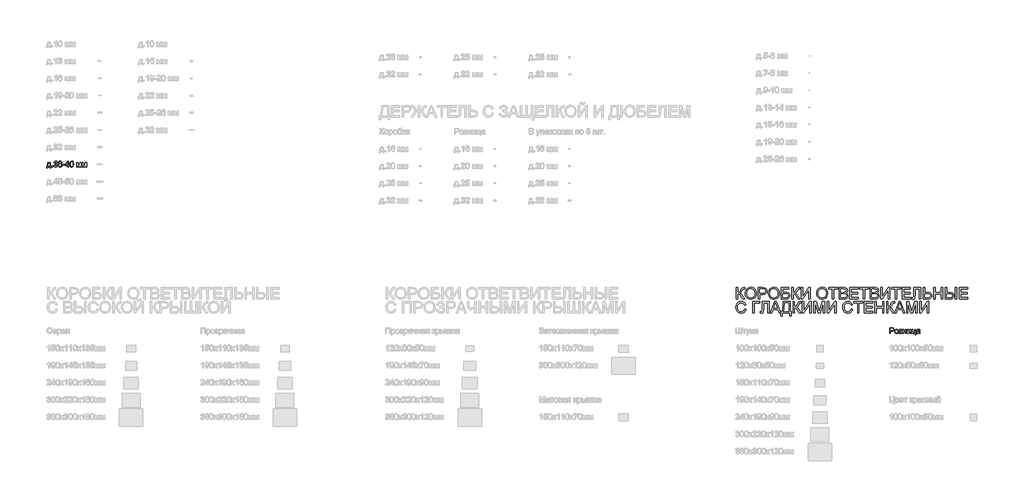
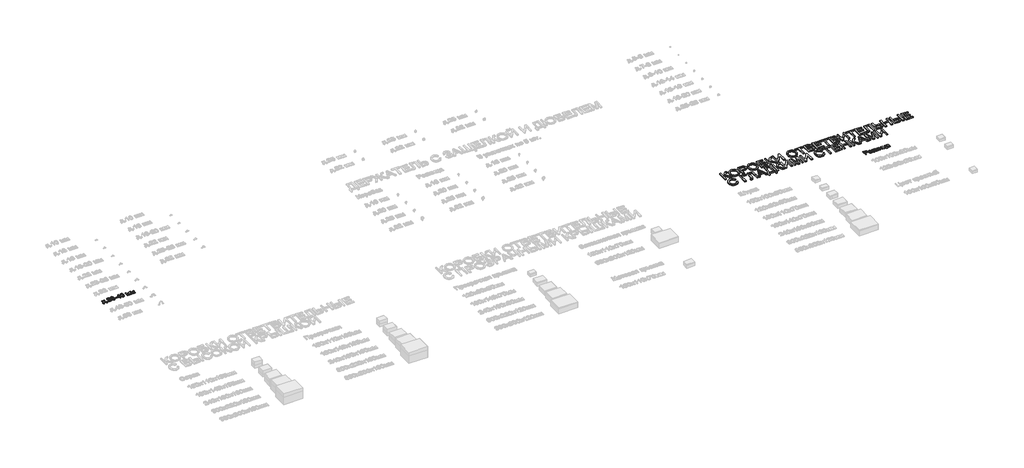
# One storey, part 32 of 98: 3 proxies.
"""IFC4 building model written with IfcOpenShell, lengths in millimetres."""

from ifc_helpers import new_model, si_unit, origin, origin_with_axes, place, context, project, spatial, polyline, outline, extrude, element, save

model = new_model("IFC4")

# Units and contexts
model_context = context("Model", 3, world=origin())
ifc_project = project(units=[si_unit("LENGTHUNIT", "METRE", prefix="MILLI")], contexts=[model_context])

# Site, building, storey
site = spatial("IfcSite", under=ifc_project)
building = spatial("IfcBuilding", under=site)
storey = spatial("IfcBuildingStorey", under=building, Name="Этаж 01", Elevation=0.0)

# Proxies
placement = place(None, origin())
element("IfcBuildingElementProxy", 1, Name="100", ObjectType="100", at=placement, inside=storey, context=model_context, shape_type="SweptSolid", body=[
    extrude(outline(polyline([(-26.9858135, -39056.3894484), (20.1030819, -39056.3894484), (20.1030819, -39117.6050124), (29.520861, -39117.6050124), (29.520861, -39150.5672392), (16.9638222, -39150.5672392), (16.9638222, -39130.1620512), (-34.8339627, -39130.1620512), (-34.8339627, -39150.5672392), (-47.3910015, -39150.5672392), (-47.3910015, -39117.6050124), (-39.5428522, -39117.6050124), (-29.8430303, -39093.6558945), (-26.9858135, -39056.3894484)]), holes=[polyline([(-15.9984045, -39068.9464872), (-18.9414605, -39097.5554437), (-25.4161836, -39117.6050124), (7.5460431, -39117.6050124), (7.5460431, -39068.9464872), (-15.9984045, -39068.9464872)])]), origin_with_axes(), (0.0, 0.0, 1.0), 10.0),
    extrude(outline(polyline([(46.7867893, -39130.1620512), (46.7867893, -39117.6050124), (59.3438281, -39117.6050124), (59.3438281, -39130.1620512), (46.7867893, -39130.1620512)])), origin_with_axes(), (0.0, 0.0, 1.0), 10.0),
    extrude(outline(polyline([(79.7490161, -39103.4783438), (92.3060548, -39101.9087139), (99.2344991, -39115.1279403), (112.196208, -39119.1746422), (120.8046467, -39117.782822), (127.4510481, -39113.6073614), (133.1164308, -39099.8240493), (127.500099, -39086.8378149), (113.2262776, -39081.6997297), (104.4216352, -39083.0731558), (105.8195868, -39070.516117), (107.830675, -39070.6632698), (122.079971, -39067.0580263), (126.8256487, -39062.4840268), (128.4075413, -39055.9725155), (123.8212791, -39046.1500662), (112.0000043, -39042.2627798), (100.0315767, -39046.1868544), (93.8756847, -39057.9590783), (81.3186459, -39056.3894484), (85.01586, -39045.1138653), (91.5948163, -39036.6954989), (100.5956625, -39031.4531805), (111.5585459, -39029.705741), (126.7030214, -39033.151569), (137.2980228, -39042.5693481), (140.9645801, -39055.2367515), (137.4819638, -39066.8127716), (127.181268, -39075.1269047), (140.8664782, -39083.7108179), (145.6734696, -39100.0447785), (143.2699739, -39112.2829862), (136.0594868, -39122.5101057), (125.1763111, -39129.4262872), (111.7547496, -39131.731681), (99.6146438, -39129.7635123), (89.7308809, -39123.8590063), (82.8576189, -39114.8275033), (79.7490161, -39103.4783438)])), origin_with_axes(), (0.0, 0.0, 1.0), 10.0),
    extrude(outline(polyline([(174.9568764, -39074.8325991), (163.5157464, -39067.0335008), (159.8001382, -39054.893395), (161.8234892, -39045.0770771), (167.8935421, -39036.9652791), (177.3297153, -39031.5206255), (189.451427, -39029.705741), (201.6467152, -39031.5635451), (211.2055157, -39037.1369573), (217.3859332, -39045.377514), (219.4460724, -39055.2367515), (215.7795151, -39067.070289), (204.6572162, -39074.8325991), (218.0113326, -39084.6795738), (222.5853321, -39100.9276953), (220.3167264, -39112.9329111), (213.5109095, -39122.8534622), (203.0017472, -39129.5121263), (189.6231053, -39131.731681), (176.2444634, -39129.5029293), (165.7353011, -39122.816674), (158.9294842, -39112.8010867), (156.6608785, -39100.5843388), (161.418819, -39083.9560726), (174.9568764, -39074.8325991)]), holes=[polyline([(169.2179173, -39100.1428804), (171.3148447, -39109.5974476), (178.7337982, -39116.6730447), (189.7212072, -39119.1746422), (198.2683322, -39117.8594641), (204.6817416, -39113.9139297), (210.0282933, -39100.5352878), (204.5100634, -39086.8991285), (197.9495011, -39082.8524266), (189.3042742, -39081.5035259), (180.8767109, -39082.8340325), (174.5276808, -39086.8255521), (169.2179173, -39100.1428804)]), polyline([(172.357177, -39055.261277), (176.8085491, -39065.1205144), (189.7702581, -39068.9464872), (202.4744497, -39065.1450399), (206.8890336, -39055.8253627), (202.3272969, -39046.1745917), (189.6231053, -39042.2627798), (176.8821255, -39046.0887525), (172.357177, -39055.261277)])]), origin_with_axes(), (0.0, 0.0, 1.0), 10.0),
    extrude(outline(polyline([(230.4334813, -39100.3390841), (230.4334813, -39087.7820453), (269.6742274, -39087.7820453), (269.6742274, -39100.3390841), (230.4334813, -39100.3390841)])), origin_with_axes(), (0.0, 0.0, 1.0), 10.0),
    extrude(outline(polyline([(321.4720124, -39130.1620512), (321.4720124, -39106.6176035), (275.9527468, -39106.6176035), (275.9527468, -39094.0605647), (324.6112721, -39031.2753709), (334.0290511, -39031.2753709), (334.0290511, -39094.0605647), (346.5860899, -39094.0605647), (346.5860899, -39106.6176035), (334.0290511, -39106.6176035), (334.0290511, -39130.1620512), (321.4720124, -39130.1620512)]), holes=[polyline([(321.4720124, -39094.0605647), (321.4720124, -39055.261277), (291.4037906, -39094.0605647), (321.4720124, -39094.0605647)])]), origin_with_axes(), (0.0, 0.0, 1.0), 10.0),
    extrude(outline(polyline([(357.5734988, -39080.7432365), (361.2645815, -39051.8399744), (372.227465, -39035.17492), (390.5357256, -39029.705741), (405.2019545, -39032.9431026), (415.3309721, -39042.2750425), (421.217084, -39057.1374751), (423.4979524, -39080.7432365), (419.8436579, -39109.5238712), (408.9175626, -39126.2257138), (400.686203, -39130.3551892), (390.5357256, -39131.731681), (377.4881775, -39129.340448), (367.5798891, -39122.1667491), (360.0750964, -39105.1767323), (357.5734988, -39080.7432365)]), holes=[polyline([(370.1305376, -39080.718711), (371.6020656, -39100.4709085), (376.0166495, -39111.9028415), (382.5894745, -39117.3566921), (390.5357256, -39119.1746422), (398.4819767, -39117.3505607), (405.0548017, -39111.878316), (409.4693856, -39100.4402516), (410.9409136, -39080.718711), (409.5184365, -39061.4110376), (405.2510054, -39049.8901998), (398.6904431, -39044.1696348), (390.3885728, -39042.2627798), (382.5281608, -39043.9427742), (376.2128532, -39048.9827576), (371.6511165, -39061.2209653), (370.1305376, -39080.718711)])]), origin_with_axes(), (0.0, 0.0, 1.0), 10.0),
    extrude(outline(polyline([(476.8653671, -39056.3894484), (498.472303, -39056.3894484), (515.1250946, -39115.4467714), (533.077736, -39056.3894484), (553.7772296, -39056.3894484), (553.7772296, -39130.1620512), (541.2201908, -39130.1620512), (541.2201908, -39070.7613717), (523.1694476, -39130.1620512), (506.6883342, -39130.1620512), (489.4224059, -39067.9164176), (489.4224059, -39130.1620512), (476.8653671, -39130.1620512), (476.8653671, -39056.3894484)])), origin_with_axes(), (0.0, 0.0, 1.0), 10.0),
    extrude(outline(polyline([(572.6127877, -39056.3894484), (594.2197236, -39056.3894484), (610.8725152, -39115.4467714), (628.8251566, -39056.3894484), (649.5246502, -39056.3894484), (649.5246502, -39130.1620512), (636.9676114, -39130.1620512), (636.9676114, -39070.7613717), (618.9168682, -39130.1620512), (602.4357548, -39130.1620512), (585.1698265, -39067.9164176), (585.1698265, -39130.1620512), (572.6127877, -39130.1620512), (572.6127877, -39056.3894484)])), origin_with_axes(), (0.0, 0.0, 1.0), 10.0),
])
element("IfcBuildingElementProxy", 2, Name="100", ObjectType="100", at=placement, inside=storey, context=model_context, shape_type="SweptSolid", body=[
    extrude(outline(polyline([(14647.089418, -42037.5373486), (14647.089418, -41937.0810385), (14684.319076, -41937.0810385), (14699.3286614, -41938.0375317), (14711.5300809, -41942.7341585), (14719.4395438, -41952.4462431), (14722.4316507, -41966.1437161), (14720.4113654, -41977.983385), (14714.3505095, -41987.8487538), (14703.0166784, -41994.5074179), (14685.1774673, -41996.7269726), (14659.6464568, -41996.7269726), (14659.6464568, -42037.5373486), (14647.089418, -42037.5373486)]), holes=[polyline([(14659.6464568, -41984.1699338), (14685.9132313, -41984.1699338), (14704.4054329, -41979.5591462), (14708.5073171, -41974.0102594), (14709.8746119, -41966.5851745), (14706.6495131, -41956.1863767), (14698.1759644, -41950.4964686), (14685.6189257, -41949.6380772), (14659.6464568, -41949.6380772), (14659.6464568, -41984.1699338)])]), origin_with_axes(), (0.0, 0.0, 1.0), 10.0),
    extrude(outline(polyline([(14734.9886894, -42000.6510472), (14737.7048848, -41982.8639528), (14745.853471, -41970.3620963), (14755.921175, -41964.2368611), (14767.9754417, -41962.195116), (14781.1670769, -41964.6813852), (14791.7038303, -41972.1401926), (14798.6108148, -41983.9829272), (14800.913143, -41999.6209776), (14796.8419155, -42021.9636775), (14784.9838526, -42034.6065554), (14767.9754417, -42039.1069785), (14754.6243909, -42036.6299064), (14744.0999002, -42029.1986901), (14737.2664921, -42017.1076351), (14734.9886894, -42000.6510472)]), holes=[polyline([(14747.5457282, -42000.6265218), (14748.9988621, -42011.9910097), (14753.3582637, -42020.0874793), (14759.918826, -42024.9343246), (14767.9754417, -42026.5499397), (14775.9952692, -42024.9251275), (14782.5435687, -42020.0506911), (14786.9029703, -42011.8469226), (14788.3561042, -42000.2341143), (14786.8937733, -41989.2007201), (14782.5067805, -41981.2146152), (14775.9492839, -41976.3677699), (14767.9754417, -41974.7521548), (14759.918826, -41976.3616385), (14753.3582637, -41981.1900897), (14748.9988621, -41989.2681652), (14747.5457282, -42000.6265218)])]), origin_with_axes(), (0.0, 0.0, 1.0), 10.0),
    extrude(outline(polyline([(14832.3057399, -42004.5751218), (14832.3057399, -41992.0180831), (14842.2140283, -41991.5275737), (14847.2172234, -41988.9156116), (14849.5716682, -41983.4586953), (14846.4201458, -41977.1188623), (14838.2899537, -41974.7521548), (14829.8899814, -41977.1065995), (14824.4575907, -41984.1699338), (14810.330922, -41982.600304), (14819.7732266, -41967.296413), (14837.0146294, -41962.195116), (14847.511529, -41963.7494174), (14855.4577801, -41968.4123217), (14860.4609752, -41975.233467), (14862.128707, -41983.2624916), (14859.7558681, -41991.0615899), (14852.6373515, -41997.0948546), (14860.9392218, -42004.9184784), (14863.6983368, -42016.1756674), (14861.9478316, -42025.4187026), (14856.6963162, -42032.7426199), (14848.2994096, -42037.5158888), (14837.1127313, -42039.1069785), (14826.1713076, -42037.6354505), (14817.7989265, -42033.2208665), (14811.9955881, -42025.8632266), (14808.7612922, -42015.5625308), (14822.8879608, -42013.9929009), (14828.5533435, -42023.2635272), (14838.3144791, -42026.5499397), (14847.4870036, -42023.3984173), (14851.141298, -42015.3418016), (14848.8726924, -42008.7444511), (14844.0411755, -42005.212784), (14834.7582865, -42004.5015454), (14832.3057399, -42004.5751218)])), origin_with_axes(), (0.0, 0.0, 1.0), 10.0),
    extrude(outline(polyline([(14879.3946353, -41963.7647458), (14891.951674, -41963.7647458), (14891.951674, -41992.0180831), (14924.9139008, -41992.0180831), (14924.9139008, -41963.7647458), (14937.4709396, -41963.7647458), (14937.4709396, -42037.5373486), (14924.9139008, -42037.5373486), (14924.9139008, -42004.5751218), (14891.951674, -42004.5751218), (14891.951674, -42037.5373486), (14879.3946353, -42037.5373486), (14879.3946353, -41963.7647458)])), origin_with_axes(), (0.0, 0.0, 1.0), 10.0),
    extrude(outline(polyline([(14956.3064977, -41963.7647458), (14968.8635365, -41963.7647458), (14968.8635365, -42020.0261656), (14999.7165732, -41963.7647458), (15015.9524319, -41963.7647458), (15015.9524319, -42037.5373486), (15003.3953931, -42037.5373486), (15003.3953931, -41981.6192853), (14972.7385602, -42037.5373486), (14956.3064977, -42037.5373486), (14956.3064977, -41963.7647458)])), origin_with_axes(), (0.0, 0.0, 1.0), 10.0),
    extrude(outline(polyline([(15034.78799, -41963.7647458), (15047.3450288, -41963.7647458), (15047.3450288, -42024.9803098), (15083.4465153, -42024.9803098), (15083.4465153, -41963.7647458), (15096.003554, -41963.7647458), (15096.003554, -42024.9803098), (15103.8517033, -42024.9803098), (15103.8517033, -42057.9425366), (15091.2946645, -42057.9425366), (15091.2946645, -42037.5373486), (15034.78799, -42037.5373486), (15034.78799, -41963.7647458)])), origin_with_axes(), (0.0, 0.0, 1.0), 10.0),
    extrude(outline(polyline([(15161.9280076, -42028.1195695), (15149.7511135, -42036.6299064), (15136.2988952, -42039.1069785), (15125.8050613, -42037.6170564), (15118.064211, -42033.1472901), (15113.2909421, -42026.3598673), (15111.6998525, -42017.9169755), (15114.1033482, -42007.9841617), (15120.4186558, -42000.7736746), (15129.2110355, -41996.6533962), (15140.075817, -41994.7649353), (15161.8544312, -41990.4484532), (15161.9280076, -41987.6525501), (15158.4699168, -41978.3819238), (15144.5885029, -41974.7521548), (15131.8843113, -41977.1679132), (15125.8265211, -41985.7395637), (15113.2694823, -41984.1699338), (15118.7018731, -41971.9072007), (15129.6402311, -41964.721239), (15146.2071836, -41962.195116), (15161.4252355, -41964.4269334), (15170.0214115, -41970.0310025), (15173.8719097, -41978.5536021), (15174.4850463, -41989.541011), (15174.4850463, -42005.163733), (15175.1227085, -42026.9791354), (15177.624306, -42037.5373486), (15165.0672673, -42037.5373486), (15161.9280076, -42028.1195695)]), holes=[polyline([(15161.9280076, -42003.005492), (15141.6699724, -42006.8559902), (15130.8665044, -42008.8916039), (15125.9736739, -42012.2025419), (15124.2568913, -42017.0340587), (15127.9970249, -42023.8276129), (15138.9721711, -42026.5499397), (15151.6763626, -42023.5455701), (15159.8678684, -42016.2737693), (15161.8544312, -42006.5616846), (15161.9280076, -42003.005492)])]), origin_with_axes(), (0.0, 0.0, 1.0), 10.0),
])
element("IfcBuildingElementProxy", 3, Name="200", ObjectType="200", at=placement, inside=storey, context=model_context, shape_type="SweptSolid", body=[
    extrude(outline(polyline([(11978.076827, -41236.6247283), (12003.1909045, -41236.6247283), (12003.1909045, -41324.5239997), (12020.193184, -41322.8623994), (12031.2725635, -41317.8775983), (12040.2304901, -41306.148294), (12050.8684111, -41284.253184), (12064.7252996, -41256.171525), (12080.421598, -41242.2655856), (12102.8623997, -41236.6247283), (12119.3435131, -41236.9190339), (12119.3435131, -41262.0331114), (12113.8007577, -41261.8859586), (12108.2580023, -41261.7388059), (12096.7555586, -41263.247122), (12088.6376293, -41267.7720706), (12073.7261457, -41293.6219121), (12055.9451826, -41325.1126109), (12038.6056779, -41335.5114086), (12057.9930591, -41346.8666995), (12077.1106601, -41370.5337746), (12119.3435131, -41437.5373486), (12090.2072591, -41437.5373486), (12054.4981801, -41380.9325723), (12029.3595771, -41351.3793853), (12017.7529001, -41345.3645147), (12003.1909045, -41343.3595578), (12003.1909045, -41437.5373486), (11978.076827, -41437.5373486), (11978.076827, -41236.6247283)])), origin_with_axes(), (0.0, 0.0, 1.0), 20.0),
    extrude(outline(polyline([(12131.9005519, -41339.7297888), (12133.574415, -41316.1638814), (12138.5960042, -41295.3019065), (12146.9653196, -41277.1438644), (12158.6823611, -41261.6897549), (12173.0450874, -41249.3503797), (12189.3514568, -41240.5365402), (12207.6014694, -41235.2482365), (12227.7951253, -41233.4854686), (12254.1477389, -41236.7964066), (12277.7780257, -41246.7292204), (12297.3983988, -41262.5849344), (12311.7212711, -41283.6645728), (12320.4768626, -41308.9503286), (12323.3953931, -41337.424395), (12320.3235784, -41366.2786061), (12311.1081345, -41391.9199812), (12296.2579646, -41413.0364077), (12276.2819723, -41428.3157733), (12252.8540205, -41437.5863995), (12227.6479725, -41440.6766083), (12200.8906887, -41437.2614371), (12177.1255118, -41427.0159236), (12157.5541897, -41410.865904), (12143.3784701, -41389.7372147), (12134.7700314, -41365.4263462), (12131.9005519, -41339.7297888)]), holes=[polyline([(12157.0146294, -41339.9750435), (12162.0362187, -41371.4044286), (12177.1009864, -41395.3535465), (12199.7441232, -41410.5102847), (12227.5008197, -41415.5625308), (12255.6621864, -41410.4612338), (12278.3421114, -41395.1573428), (12287.0655132, -41383.8848253), (12293.2965145, -41370.4724609), (12298.2813156, -41337.2281913), (12296.1476, -41314.995856), (12289.7464533, -41295.7801531), (12279.2434223, -41280.0654606), (12264.804054, -41268.3361563), (12247.3848415, -41261.0336987), (12227.9422781, -41258.5995462), (12200.9274769, -41263.2900416), (12177.9593777, -41277.3615279), (12168.7960503, -41288.3106158), (12162.2508165, -41302.3958977), (12157.0146294, -41339.9750435)])]), origin_with_axes(), (0.0, 0.0, 1.0), 20.0),
    extrude(outline(polyline([(12357.9272497, -41437.5373486), (12357.9272497, -41236.6247283), (12432.3865655, -41236.6247283), (12462.4057364, -41238.5377147), (12486.8085754, -41247.9309683), (12495.6806628, -41256.2573641), (12502.6275012, -41267.3551376), (12507.1156615, -41280.4456053), (12508.6117149, -41294.7500836), (12504.5711444, -41318.4294213), (12492.4494326, -41338.160159), (12482.7419465, -41345.9286004), (12469.7817704, -41351.4774872), (12434.1033482, -41355.9165966), (12383.0413273, -41355.9165966), (12383.0413273, -41437.5373486), (12357.9272497, -41437.5373486)]), holes=[polyline([(12383.0413273, -41330.8025191), (12435.5748762, -41330.8025191), (12457.8439996, -41328.4971252), (12472.5592794, -41321.5809437), (12480.7630479, -41310.4831702), (12483.4976374, -41295.6330003), (12481.885088, -41284.3512858), (12477.0474398, -41274.8354049), (12469.5855666, -41267.6739687), (12460.1003425, -41263.4555885), (12434.986265, -41261.7388059), (12383.0413273, -41261.7388059), (12383.0413273, -41330.8025191)])]), origin_with_axes(), (0.0, 0.0, 1.0), 20.0),
    extrude(outline(polyline([(12533.7257925, -41339.7297888), (12535.3996556, -41316.1638814), (12540.4212448, -41295.3019065), (12548.7905602, -41277.1438644), (12560.5076017, -41261.6897549), (12574.870328, -41249.3503797), (12591.1766974, -41240.5365402), (12609.42671, -41235.2482365), (12629.6203659, -41233.4854686), (12655.9729795, -41236.7964066), (12679.6032663, -41246.7292204), (12699.2236394, -41262.5849344), (12713.5465117, -41283.6645728), (12722.3021032, -41308.9503286), (12725.2206337, -41337.424395), (12722.148819, -41366.2786061), (12712.9333751, -41391.9199812), (12698.0832052, -41413.0364077), (12678.1072129, -41428.3157733), (12654.6792611, -41437.5863995), (12629.4732131, -41440.6766083), (12602.7159293, -41437.2614371), (12578.9507524, -41427.0159236), (12559.3794303, -41410.865904), (12545.2037107, -41389.7372147), (12536.595272, -41365.4263462), (12533.7257925, -41339.7297888)]), holes=[polyline([(12558.83987, -41339.9750435), (12563.8614593, -41371.4044286), (12578.926227, -41395.3535465), (12601.5693638, -41410.5102847), (12629.3260603, -41415.5625308), (12657.487427, -41410.4612338), (12680.167352, -41395.1573428), (12688.8907538, -41383.8848253), (12695.1217551, -41370.4724609), (12700.1065562, -41337.2281913), (12697.9728406, -41314.995856), (12691.5716939, -41295.7801531), (12681.0686629, -41280.0654606), (12666.6292946, -41268.3361563), (12649.2100821, -41261.0336987), (12629.7675187, -41258.5995462), (12602.7527175, -41263.2900416), (12579.7846183, -41277.3615279), (12570.6212909, -41288.3106158), (12564.0760571, -41302.3958977), (12558.83987, -41339.9750435)])]), origin_with_axes(), (0.0, 0.0, 1.0), 20.0),
    extrude(outline(polyline([(12759.7524903, -41236.6247283), (12885.322878, -41236.6247283), (12885.322878, -41261.7388059), (12784.8665679, -41261.7388059), (12784.8665679, -41321.38474), (12831.9064123, -41321.38474), (12855.2914445, -41322.6600643), (12873.3544504, -41326.486037), (12887.2236016, -41333.8559396), (12898.0270696, -41345.7630535), (12904.9800393, -41361.09147), (12907.2976959, -41378.7252803), (12905.6483582, -41393.5325306), (12900.7003454, -41407.3464995), (12892.4781828, -41419.4436858), (12881.0063959, -41429.1005882), (12863.311272, -41435.4281585), (12836.4190981, -41437.5373486), (12759.7524903, -41437.5373486), (12759.7524903, -41236.6247283)]), holes=[polyline([(12784.8665679, -41412.4232711), (12838.675441, -41412.4232711), (12857.6949402, -41410.3508692), (12871.2943113, -41404.1336635), (12879.4612915, -41393.7716539), (12882.1836183, -41379.2648406), (12880.6262512, -41368.4613727), (12875.9541499, -41359.5954166), (12868.5045395, -41353.0225916), (12858.6146452, -41349.098517), (12820.7718506, -41346.4988175), (12784.8665679, -41346.4988175), (12784.8665679, -41412.4232711)])]), origin_with_axes(), (0.0, 0.0, 1.0), 20.0),
    extrude(outline(polyline([(12941.8295525, -41236.6247283), (12966.94363, -41236.6247283), (12966.94363, -41324.5239997), (12983.9459095, -41322.8623994), (12995.025289, -41317.8775983), (13003.9832155, -41306.148294), (13014.6211366, -41284.253184), (13028.4780251, -41256.171525), (13044.1743235, -41242.2655856), (13066.6151252, -41236.6247283), (13083.0962386, -41236.9190339), (13083.0962386, -41262.0331114), (13077.5534832, -41261.8859586), (13072.0107278, -41261.7388059), (13060.5082841, -41263.247122), (13052.3903547, -41267.7720706), (13037.4788712, -41293.6219121), (13019.6979081, -41325.1126109), (13002.3584034, -41335.5114086), (13021.7457846, -41346.8666995), (13040.8633856, -41370.5337746), (13083.0962386, -41437.5373486), (13053.9599846, -41437.5373486), (13018.2509056, -41380.9325723), (12993.1123026, -41351.3793853), (12981.5056256, -41345.3645147), (12966.94363, -41343.3595578), (12966.94363, -41437.5373486), (12941.8295525, -41437.5373486), (12941.8295525, -41236.6247283)])), origin_with_axes(), (0.0, 0.0, 1.0), 20.0),
    extrude(outline(polyline([(13105.0710565, -41236.6247283), (13130.185134, -41236.6247283), (13130.185134, -41395.745954), (13235.3503337, -41236.6247283), (13262.0340411, -41236.6247283), (13262.0340411, -41437.5373486), (13236.9199635, -41437.5373486), (13236.9199635, -41278.8575814), (13132.0000185, -41437.5373486), (13105.0710565, -41437.5373486), (13105.0710565, -41236.6247283)])), origin_with_axes(), (0.0, 0.0, 1.0), 20.0),
    extrude(outline(polyline([(13375.04739, -41339.7297888), (13376.7212531, -41316.1638814), (13381.7428423, -41295.3019065), (13390.1121577, -41277.1438644), (13401.8291992, -41261.6897549), (13416.1919255, -41249.3503797), (13432.4982949, -41240.5365402), (13450.7483075, -41235.2482365), (13470.9419634, -41233.4854686), (13497.294577, -41236.7964066), (13520.9248638, -41246.7292204), (13540.5452369, -41262.5849344), (13554.8681092, -41283.6645728), (13563.6237007, -41308.9503286), (13566.5422312, -41337.424395), (13563.4704165, -41366.2786061), (13554.2549726, -41391.9199812), (13539.4048027, -41413.0364077), (13519.4288104, -41428.3157733), (13496.0008586, -41437.5863995), (13470.7948106, -41440.6766083), (13444.0375268, -41437.2614371), (13420.2723499, -41427.0159236), (13400.7010278, -41410.865904), (13386.5253082, -41389.7372147), (13377.9168695, -41365.4263462), (13375.04739, -41339.7297888)]), holes=[polyline([(13400.1614675, -41339.9750435), (13405.1830568, -41371.4044286), (13420.2478245, -41395.3535465), (13442.8909613, -41410.5102847), (13470.6476578, -41415.5625308), (13498.8090245, -41410.4612338), (13521.4889495, -41395.1573428), (13530.2123513, -41383.8848253), (13536.4433526, -41370.4724609), (13541.4281537, -41337.2281913), (13539.2944381, -41314.995856), (13532.8932914, -41295.7801531), (13522.3902604, -41280.0654606), (13507.9508921, -41268.3361563), (13490.5316796, -41261.0336987), (13471.0891162, -41258.5995462), (13444.074315, -41263.2900416), (13421.1062158, -41277.3615279), (13411.9428884, -41288.3106158), (13405.3976546, -41302.3958977), (13400.1614675, -41339.9750435)])]), origin_with_axes(), (0.0, 0.0, 1.0), 20.0),
    extrude(outline(polyline([(13651.3022429, -41437.5373486), (13651.3022429, -41261.7388059), (13585.3777894, -41261.7388059), (13585.3777894, -41236.6247283), (13742.340774, -41236.6247283), (13742.340774, -41261.7388059), (13676.4163204, -41261.7388059), (13676.4163204, -41437.5373486), (13651.3022429, -41437.5373486)])), origin_with_axes(), (0.0, 0.0, 1.0), 20.0),
    extrude(outline(polyline([(13770.5941112, -41437.5373486), (13770.5941112, -41236.6247283), (13847.260719, -41236.6247283), (13868.3464887, -41238.1023877), (13884.809208, -41242.5353657), (13897.4275604, -41250.034027), (13906.9802295, -41260.7087363), (13912.9951002, -41273.265775), (13915.000057, -41286.411425), (13913.3139312, -41298.5086113), (13908.2555538, -41309.8822963), (13899.7881365, -41319.8335043), (13887.8748913, -41327.6632594), (13902.1057931, -41335.0944757), (13912.6210868, -41346.4007157), (13919.114204, -41360.8339526), (13921.2785764, -41377.6461598), (13915.367939, -41404.6486982), (13900.7262356, -41423.8766639), (13878.8740451, -41434.0792579), (13846.6721078, -41437.5373486), (13770.5941112, -41437.5373486)]), holes=[polyline([(13795.7081887, -41412.4232711), (13847.2116681, -41412.4232711), (13865.8510225, -41411.4422524), (13881.6208973, -41405.9730734), (13892.068746, -41394.8139862), (13896.1644989, -41377.8914145), (13891.3575075, -41358.3691433), (13885.060594, -41351.3119403), (13875.7838364, -41346.7195467), (13844.7591214, -41343.3595578), (13795.7081887, -41343.3595578), (13795.7081887, -41412.4232711)]), polyline([(13795.7081887, -41318.2454803), (13841.5708108, -41318.2454803), (13868.3526201, -41316.0872393), (13884.4658514, -41306.7920875), (13889.8859795, -41290.4336015), (13884.8337334, -41274.05059), (13870.3637083, -41264.3630308), (13838.0881946, -41261.7388059), (13795.7081887, -41261.7388059), (13795.7081887, -41318.2454803)])]), origin_with_axes(), (0.0, 0.0, 1.0), 20.0),
    extrude(outline(polyline([(13955.810433, -41437.5373486), (13955.810433, -41236.6247283), (14100.2163789, -41236.6247283), (14100.2163789, -41261.7388059), (13980.9245106, -41261.7388059), (13980.9245106, -41321.38474), (14093.9378595, -41321.38474), (14093.9378595, -41346.4988175), (13980.9245106, -41346.4988175), (13980.9245106, -41412.4232711), (14103.3556386, -41412.4232711), (14103.3556386, -41437.5373486), (13955.810433, -41437.5373486)])), origin_with_axes(), (0.0, 0.0, 1.0), 20.0),
    extrude(outline(polyline([(14191.25491, -41437.5373486), (14191.25491, -41261.7388059), (14125.3304564, -41261.7388059), (14125.3304564, -41236.6247283), (14282.293441, -41236.6247283), (14282.293441, -41261.7388059), (14216.3689875, -41261.7388059), (14216.3689875, -41437.5373486), (14191.25491, -41437.5373486)])), origin_with_axes(), (0.0, 0.0, 1.0), 20.0),
    extrude(outline(polyline([(14310.5467783, -41437.5373486), (14310.5467783, -41236.6247283), (14387.213386, -41236.6247283), (14408.2991557, -41238.1023877), (14424.761875, -41242.5353657), (14437.3802275, -41250.034027), (14446.9328966, -41260.7087363), (14452.9477672, -41273.265775), (14454.9527241, -41286.411425), (14453.2665983, -41298.5086113), (14448.2082208, -41309.8822963), (14439.7408036, -41319.8335043), (14427.8275583, -41327.6632594), (14442.0584602, -41335.0944757), (14452.5737539, -41346.4007157), (14459.0668711, -41360.8339526), (14461.2312435, -41377.6461598), (14455.3206061, -41404.6486982), (14440.6789027, -41423.8766639), (14418.8267122, -41434.0792579), (14386.6247749, -41437.5373486), (14310.5467783, -41437.5373486)]), holes=[polyline([(14335.6608558, -41412.4232711), (14387.1643351, -41412.4232711), (14405.8036895, -41411.4422524), (14421.5735644, -41405.9730734), (14432.0214131, -41394.8139862), (14436.1171659, -41377.8914145), (14431.3101745, -41358.3691433), (14425.0132611, -41351.3119403), (14415.7365034, -41346.7195467), (14384.7117885, -41343.3595578), (14335.6608558, -41343.3595578), (14335.6608558, -41412.4232711)]), polyline([(14335.6608558, -41318.2454803), (14381.5234779, -41318.2454803), (14408.3052871, -41316.0872393), (14424.4185185, -41306.7920875), (14429.8386466, -41290.4336015), (14424.7864005, -41274.05059), (14410.3163753, -41264.3630308), (14378.0408616, -41261.7388059), (14335.6608558, -41261.7388059), (14335.6608558, -41318.2454803)])]), origin_with_axes(), (0.0, 0.0, 1.0), 20.0),
    extrude(outline(polyline([(14495.7631001, -41236.6247283), (14520.8771776, -41236.6247283), (14520.8771776, -41395.745954), (14626.0423773, -41236.6247283), (14652.7260847, -41236.6247283), (14652.7260847, -41437.5373486), (14627.6120072, -41437.5373486), (14627.6120072, -41278.8575814), (14522.6920621, -41437.5373486), (14495.7631001, -41437.5373486), (14495.7631001, -41236.6247283)])), origin_with_axes(), (0.0, 0.0, 1.0), 20.0),
    extrude(outline(polyline([(14746.9038755, -41437.5373486), (14746.9038755, -41261.7388059), (14680.9794219, -41261.7388059), (14680.9794219, -41236.6247283), (14837.9424065, -41236.6247283), (14837.9424065, -41261.7388059), (14772.017953, -41261.7388059), (14772.017953, -41437.5373486), (14746.9038755, -41437.5373486)])), origin_with_axes(), (0.0, 0.0, 1.0), 20.0),
    extrude(outline(polyline([(14866.1957438, -41437.5373486), (14866.1957438, -41236.6247283), (15010.6016896, -41236.6247283), (15010.6016896, -41261.7388059), (14891.3098213, -41261.7388059), (14891.3098213, -41321.38474), (15004.3231702, -41321.38474), (15004.3231702, -41346.4988175), (14891.3098213, -41346.4988175), (14891.3098213, -41412.4232711), (15013.7409493, -41412.4232711), (15013.7409493, -41437.5373486), (14866.1957438, -41437.5373486)])), origin_with_axes(), (0.0, 0.0, 1.0), 20.0),
    extrude(outline(polyline([(15067.1083641, -41236.6247283), (15189.5394921, -41236.6247283), (15189.5394921, -41437.5373486), (15164.4254145, -41437.5373486), (15164.4254145, -41261.7388059), (15092.2224416, -41261.7388059), (15092.2224416, -41364.2552552), (15089.3039111, -41409.9952499), (15084.7850939, -41422.9201707), (15077.0657034, -41432.6077299), (15066.4952274, -41438.6593887), (15053.4231538, -41440.6766083), (15032.5765075, -41437.5373486), (15035.7157671, -41412.4232711), (15047.7332457, -41415.5625308), (15056.2251884, -41413.876405), (15062.2768472, -41408.8180275), (15065.9004849, -41397.5056562), (15067.1083641, -41377.0575486), (15067.1083641, -41236.6247283)])), origin_with_axes(), (0.0, 0.0, 1.0), 20.0),
    extrude(outline(polyline([(15233.4891278, -41236.6247283), (15258.6032053, -41236.6247283), (15258.6032053, -41321.38474), (15305.6430497, -41321.38474), (15334.0251457, -41323.3529087), (15353.3450818, -41329.2574147), (15366.0492733, -41338.5525664), (15374.5841356, -41350.6926723), (15379.4217839, -41364.4575903), (15381.0343333, -41378.6271785), (15377.1593096, -41400.6755727), (15365.5342386, -41419.8299619), (15356.1164595, -41427.5769436), (15343.363217, -41433.1105019), (15307.8503417, -41437.5373486), (15233.4891278, -41437.5373486), (15233.4891278, -41236.6247283)]), holes=[polyline([(15258.6032053, -41412.4232711), (15307.8012908, -41412.4232711), (15332.5474863, -41409.9400676), (15346.8458332, -41402.4904572), (15353.6516501, -41391.5337051), (15355.9202557, -41378.5290766), (15354.2770495, -41367.9953888), (15349.3474308, -41359.1539582), (15341.6770912, -41352.5750018), (15331.8117223, -41348.8287368), (15294.6556408, -41346.4988175), (15258.6032053, -41346.4988175), (15258.6032053, -41412.4232711)])]), origin_with_axes(), (0.0, 0.0, 1.0), 20.0),
    extrude(outline(polyline([(15415.5661899, -41437.5373486), (15415.5661899, -41236.6247283), (15440.6802674, -41236.6247283), (15440.6802674, -41318.2454803), (15547.415097, -41318.2454803), (15547.415097, -41236.6247283), (15572.5291745, -41236.6247283), (15572.5291745, -41437.5373486), (15547.415097, -41437.5373486), (15547.415097, -41343.3595578), (15440.6802674, -41343.3595578), (15440.6802674, -41437.5373486), (15415.5661899, -41437.5373486)])), origin_with_axes(), (0.0, 0.0, 1.0), 20.0),
    extrude(outline(polyline([(15792.277353, -41236.6247283), (15817.3914305, -41236.6247283), (15817.3914305, -41437.5373486), (15792.277353, -41437.5373486), (15792.277353, -41236.6247283)])), origin_with_axes(), (0.0, 0.0, 1.0), 20.0),
    extrude(outline(polyline([(15616.4788102, -41236.6247283), (15641.5928877, -41236.6247283), (15641.5928877, -41321.38474), (15689.8590055, -41321.38474), (15729.1365399, -41325.7747985), (15742.6960571, -41331.2623716), (15752.202741, -41338.9449739), (15763.4231418, -41357.6824302), (15767.1632754, -41378.7743313), (15763.208544, -41400.8043314), (15751.3443496, -41419.9035383), (15741.738031, -41427.6183303), (15728.738001, -41433.128896), (15692.5568068, -41437.5373486), (15616.4788102, -41437.5373486), (15616.4788102, -41236.6247283)]), holes=[polyline([(15641.5928877, -41412.4232711), (15692.3115521, -41412.4232711), (15714.8688498, -41410.4305769), (15730.2524486, -41404.4524945), (15739.1000106, -41394.0843536), (15742.0491979, -41378.921484), (15740.2649702, -41367.9708633), (15734.9122872, -41358.9577544), (15726.7330442, -41352.3726667), (15716.4691365, -41348.7061095), (15678.7244438, -41346.4988175), (15641.5928877, -41346.4988175), (15641.5928877, -41412.4232711)])]), origin_with_axes(), (0.0, 0.0, 1.0), 20.0),
    extrude(outline(polyline([(15864.4803259, -41437.5373486), (15864.4803259, -41236.6247283), (16008.8862717, -41236.6247283), (16008.8862717, -41261.7388059), (15889.5944034, -41261.7388059), (15889.5944034, -41321.38474), (16002.6077523, -41321.38474), (16002.6077523, -41346.4988175), (15889.5944034, -41346.4988175), (15889.5944034, -41412.4232711), (16012.0255314, -41412.4232711), (16012.0255314, -41437.5373486), (15864.4803259, -41437.5373486)])), origin_with_axes(), (0.0, 0.0, 1.0), 20.0),
    extrude(outline(polyline([(12119.3435131, -41610.0688263), (12144.4575907, -41616.5435494), (12132.8693078, -41645.8085621), (12114.6836745, -41667.1886374), (12090.7958703, -41680.2668424), (12062.1010747, -41684.626244), (12032.970952, -41681.3275688), (12009.8373059, -41671.4315431), (11992.1053937, -41655.2815235), (11979.180473, -41633.2208665), (11971.2894042, -41607.2851859), (11968.6590479, -41579.5100952), (11971.6327607, -41550.2144257), (11980.5538991, -41524.9164072), (11994.9564792, -41504.4192487), (12014.3745172, -41489.5261592), (12037.4039301, -41480.457868), (12062.6406349, -41477.4351043), (12090.1766023, -41481.3469162), (12112.9423664, -41493.0823518), (12130.2266888, -41511.91791), (12141.318331, -41537.1300894), (12116.2042534, -41543.1143032), (12107.4977129, -41524.7999112), (12095.6028617, -41512.2367411), (12080.3725471, -41504.9710717), (12061.6596163, -41502.5491818), (12040.0894686, -41505.2347204), (12022.3698192, -41513.2913361), (12008.9237323, -41525.8729003), (12000.1742721, -41542.1332845), (11995.3734121, -41560.5151216), (11993.7731254, -41579.4610443), (11995.6677177, -41602.6621355), (12001.3514945, -41622.7239669), (12011.0390537, -41638.8801179), (12024.9449932, -41650.3641675), (12041.6161789, -41657.2251667), (12059.5994771, -41659.5121665), (12080.5626195, -41656.3974322), (12098.0308829, -41647.0532296), (12111.2194524, -41631.5776603), (12119.3435131, -41610.0688263)])), origin_with_axes(), (0.0, 0.0, 1.0), 20.0),
    extrude(outline(polyline([(12260.6101993, -41480.574364), (12386.1805869, -41480.574364), (12386.1805869, -41505.6884415), (12285.7242768, -41505.6884415), (12285.7242768, -41681.4869843), (12260.6101993, -41681.4869843), (12260.6101993, -41480.574364)])), origin_with_axes(), (0.0, 0.0, 1.0), 20.0),
    extrude(outline(polyline([(12423.8517033, -41480.574364), (12546.2828313, -41480.574364), (12546.2828313, -41681.4869843), (12521.1687537, -41681.4869843), (12521.1687537, -41505.6884415), (12448.9657808, -41505.6884415), (12448.9657808, -41608.2048909), (12446.0472503, -41653.9448856), (12441.5284331, -41666.8698064), (12433.8090426, -41676.5573656), (12423.2385666, -41682.6090244), (12410.166493, -41684.626244), (12389.3198466, -41681.4869843), (12392.4591063, -41656.3729068), (12404.4765848, -41659.5121665), (12412.9685276, -41657.8260406), (12419.0201864, -41652.7676632), (12422.643824, -41641.4552919), (12423.8517033, -41621.0071843), (12423.8517033, -41480.574364)])), origin_with_axes(), (0.0, 0.0, 1.0), 20.0),
    extrude(outline(polyline([(12566.835172, -41681.4869843), (12647.033447, -41480.574364), (12668.4196536, -41480.574364), (12748.6179286, -41681.4869843), (12722.081374, -41681.4869843), (12699.0764866, -41618.7017905), (12616.3275631, -41618.7017905), (12593.3717266, -41681.4869843), (12566.835172, -41681.4869843)]), holes=[polyline([(12625.5491385, -41593.5877129), (12689.9039622, -41593.5877129), (12671.804168, -41544.1934237), (12657.7265503, -41505.6884415), (12645.2185625, -41539.8769416), (12625.5491385, -41593.5877129)])]), origin_with_axes(), (0.0, 0.0, 1.0), 20.0),
    extrude(outline(polyline([(12794.2843469, -41480.574364), (12913.5762152, -41480.574364), (12913.5762152, -41656.3729068), (12932.4117734, -41656.3729068), (12932.4117734, -41728.5758797), (12907.2976959, -41728.5758797), (12907.2976959, -41681.4869843), (12778.5880485, -41681.4869843), (12778.5880485, -41728.5758797), (12753.4739709, -41728.5758797), (12753.4739709, -41656.3729068), (12769.1702694, -41656.3729068), (12780.1576783, -41633.5918142), (12788.0058275, -41601.5462268), (12792.7147171, -41560.2361444), (12794.2843469, -41509.6615671), (12794.2843469, -41480.574364)]), holes=[polyline([(12888.4621377, -41505.6884415), (12819.3984245, -41505.6884415), (12819.3984245, -41515.7929337), (12814.2971275, -41584.6113922), (12806.7432838, -41624.3794359), (12794.2843469, -41656.3729068), (12888.4621377, -41656.3729068), (12888.4621377, -41505.6884415)])]), origin_with_axes(), (0.0, 0.0, 1.0), 20.0),
    extrude(outline(polyline([(12963.8043703, -41480.574364), (12988.9184478, -41480.574364), (12988.9184478, -41568.4736354), (13005.9207274, -41566.812035), (13017.0001068, -41561.827234), (13025.9580334, -41550.0979297), (13036.5959544, -41528.2028196), (13050.4528429, -41500.1211607), (13066.1491414, -41486.2152213), (13088.5899431, -41480.574364), (13105.0710565, -41480.8686696), (13105.0710565, -41505.9827471), (13099.5283011, -41505.8355943), (13093.9855457, -41505.6884415), (13082.483102, -41507.1967577), (13074.3651726, -41511.7217063), (13059.4536891, -41537.5715478), (13041.672726, -41569.0622466), (13024.3332212, -41579.4610443), (13043.7206024, -41590.8163352), (13062.8382034, -41614.4834102), (13105.0710565, -41681.4869843), (13075.9348024, -41681.4869843), (13040.2257234, -41624.882208), (13015.0871204, -41595.329021), (13003.4804435, -41589.3141504), (12988.9184478, -41587.3091935), (12988.9184478, -41681.4869843), (12963.8043703, -41681.4869843), (12963.8043703, -41480.574364)])), origin_with_axes(), (0.0, 0.0, 1.0), 20.0),
    extrude(outline(polyline([(13127.0458743, -41480.574364), (13152.1599518, -41480.574364), (13152.1599518, -41639.6955897), (13257.3251515, -41480.574364), (13284.0088589, -41480.574364), (13284.0088589, -41681.4869843), (13258.8947814, -41681.4869843), (13258.8947814, -41522.8072171), (13153.9748364, -41681.4869843), (13127.0458743, -41681.4869843), (13127.0458743, -41480.574364)])), origin_with_axes(), (0.0, 0.0, 1.0), 20.0),
    extrude(outline(polyline([(13327.9584946, -41681.4869843), (13327.9584946, -41480.574364), (13371.1723663, -41480.574364), (13412.2770479, -41622.1844067), (13420.5666555, -41651.7621191), (13429.5429762, -41619.73186), (13469.9609447, -41480.574364), (13513.1748164, -41480.574364), (13513.1748164, -41681.4869843), (13488.0607389, -41681.4869843), (13488.0607389, -41505.6884415), (13437.5873292, -41681.4869843), (13403.5459819, -41681.4869843), (13353.0725721, -41505.6884415), (13353.0725721, -41681.4869843), (13327.9584946, -41681.4869843)])), origin_with_axes(), (0.0, 0.0, 1.0), 20.0),
    extrude(outline(polyline([(13557.1244521, -41480.574364), (13582.2385297, -41480.574364), (13582.2385297, -41639.6955897), (13687.4037294, -41480.574364), (13714.0874367, -41480.574364), (13714.0874367, -41681.4869843), (13688.9733592, -41681.4869843), (13688.9733592, -41522.8072171), (13584.0534142, -41681.4869843), (13557.1244521, -41681.4869843), (13557.1244521, -41480.574364)])), origin_with_axes(), (0.0, 0.0, 1.0), 20.0),
    extrude(outline(polyline([(13977.7852509, -41610.0688263), (14002.8993284, -41616.5435494), (13991.3110456, -41645.8085621), (13973.1254123, -41667.1886374), (13949.2376081, -41680.2668424), (13920.5428124, -41684.626244), (13891.4126898, -41681.3275688), (13868.2790437, -41671.4315431), (13850.5471315, -41655.2815235), (13837.6222107, -41633.2208665), (13829.7311419, -41607.2851859), (13827.1007857, -41579.5100952), (13830.0744985, -41550.2144257), (13838.9956368, -41524.9164072), (13853.3982169, -41504.4192487), (13872.8162549, -41489.5261592), (13895.8456678, -41480.457868), (13921.0823727, -41477.4351043), (13948.61834, -41481.3469162), (13971.3841042, -41493.0823518), (13988.6684266, -41511.91791), (13999.7600687, -41537.1300894), (13974.6459912, -41543.1143032), (13965.9394506, -41524.7999112), (13954.0445995, -41512.2367411), (13938.8142849, -41504.9710717), (13920.101354, -41502.5491818), (13898.5312064, -41505.2347204), (13880.811557, -41513.2913361), (13867.36547, -41525.8729003), (13858.6160099, -41542.1332845), (13853.8151499, -41560.5151216), (13852.2148632, -41579.4610443), (13854.1094555, -41602.6621355), (13859.7932323, -41622.7239669), (13869.4807915, -41638.8801179), (13883.3867309, -41650.3641675), (13900.0579167, -41657.2251667), (13918.0412149, -41659.5121665), (13939.0043572, -41656.3974322), (13956.4726206, -41647.0532296), (13969.6611902, -41631.5776603), (13977.7852509, -41610.0688263)])), origin_with_axes(), (0.0, 0.0, 1.0), 20.0),
    extrude(outline(polyline([(14087.6593401, -41681.4869843), (14087.6593401, -41505.6884415), (14021.7348866, -41505.6884415), (14021.7348866, -41480.574364), (14178.6978712, -41480.574364), (14178.6978712, -41505.6884415), (14112.7734176, -41505.6884415), (14112.7734176, -41681.4869843), (14087.6593401, -41681.4869843)])), origin_with_axes(), (0.0, 0.0, 1.0), 20.0),
    extrude(outline(polyline([(14206.9512084, -41681.4869843), (14206.9512084, -41480.574364), (14351.3571543, -41480.574364), (14351.3571543, -41505.6884415), (14232.0652859, -41505.6884415), (14232.0652859, -41565.3343757), (14345.0786349, -41565.3343757), (14345.0786349, -41590.4484532), (14232.0652859, -41590.4484532), (14232.0652859, -41656.3729068), (14354.4964139, -41656.3729068), (14354.4964139, -41681.4869843), (14206.9512084, -41681.4869843)])), origin_with_axes(), (0.0, 0.0, 1.0), 20.0),
    extrude(outline(polyline([(14392.1675302, -41681.4869843), (14392.1675302, -41480.574364), (14417.2816078, -41480.574364), (14417.2816078, -41562.195116), (14524.0164373, -41562.195116), (14524.0164373, -41480.574364), (14549.1305149, -41480.574364), (14549.1305149, -41681.4869843), (14524.0164373, -41681.4869843), (14524.0164373, -41587.3091935), (14417.2816078, -41587.3091935), (14417.2816078, -41681.4869843), (14392.1675302, -41681.4869843)])), origin_with_axes(), (0.0, 0.0, 1.0), 20.0),
    extrude(outline(polyline([(14593.0801505, -41480.574364), (14618.1942281, -41480.574364), (14618.1942281, -41568.4736354), (14635.1965076, -41566.812035), (14646.2758871, -41561.827234), (14655.2338136, -41550.0979297), (14665.8717347, -41528.2028196), (14679.7286231, -41500.1211607), (14695.4249216, -41486.2152213), (14717.8657233, -41480.574364), (14734.3468367, -41480.8686696), (14734.3468367, -41505.9827471), (14728.8040813, -41505.8355943), (14723.2613259, -41505.6884415), (14711.7588822, -41507.1967577), (14703.6409528, -41511.7217063), (14688.7294693, -41537.5715478), (14670.9485062, -41569.0622466), (14653.6090015, -41579.4610443), (14672.9963826, -41590.8163352), (14692.1139837, -41614.4834102), (14734.3468367, -41681.4869843), (14705.2105827, -41681.4869843), (14669.5015037, -41624.882208), (14644.3629007, -41595.329021), (14632.7562237, -41589.3141504), (14618.1942281, -41587.3091935), (14618.1942281, -41681.4869843), (14593.0801505, -41681.4869843), (14593.0801505, -41480.574364)])), origin_with_axes(), (0.0, 0.0, 1.0), 20.0),
    extrude(outline(polyline([(14732.9243596, -41681.4869843), (14813.1226346, -41480.574364), (14834.5088413, -41480.574364), (14914.7071162, -41681.4869843), (14888.1705616, -41681.4869843), (14865.1656742, -41618.7017905), (14782.4167507, -41618.7017905), (14759.4609142, -41681.4869843), (14732.9243596, -41681.4869843)]), holes=[polyline([(14791.6383261, -41593.5877129), (14855.9931498, -41593.5877129), (14837.8933556, -41544.1934237), (14823.8157379, -41505.6884415), (14811.3077501, -41539.8769416), (14791.6383261, -41593.5877129)])]), origin_with_axes(), (0.0, 0.0, 1.0), 20.0),
    extrude(outline(polyline([(14941.5379764, -41681.4869843), (14941.5379764, -41480.574364), (14984.7518481, -41480.574364), (15025.8565297, -41622.1844067), (15034.1461373, -41651.7621191), (15043.122458, -41619.73186), (15083.5404265, -41480.574364), (15126.7542982, -41480.574364), (15126.7542982, -41681.4869843), (15101.6402207, -41681.4869843), (15101.6402207, -41505.6884415), (15051.1668109, -41681.4869843), (15017.1254637, -41681.4869843), (14966.6520539, -41505.6884415), (14966.6520539, -41681.4869843), (14941.5379764, -41681.4869843)])), origin_with_axes(), (0.0, 0.0, 1.0), 20.0),
    extrude(outline(polyline([(15170.7039339, -41480.574364), (15195.8180114, -41480.574364), (15195.8180114, -41639.6955897), (15300.9832111, -41480.574364), (15327.6669185, -41480.574364), (15327.6669185, -41681.4869843), (15302.552841, -41681.4869843), (15302.552841, -41522.8072171), (15197.632896, -41681.4869843), (15170.7039339, -41681.4869843), (15170.7039339, -41480.574364)])), origin_with_axes(), (0.0, 0.0, 1.0), 20.0),
])

save(model, "model.ifc")
